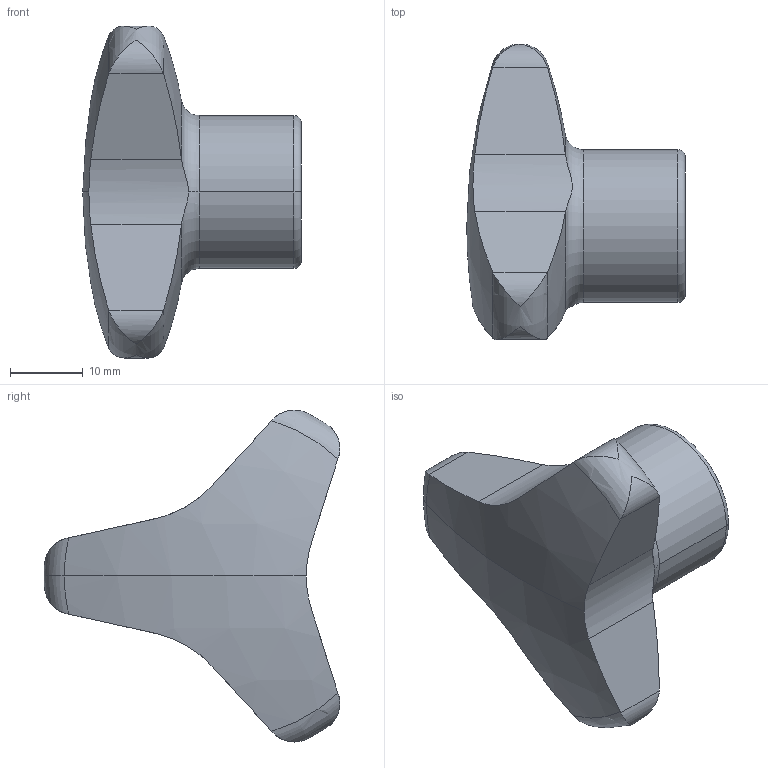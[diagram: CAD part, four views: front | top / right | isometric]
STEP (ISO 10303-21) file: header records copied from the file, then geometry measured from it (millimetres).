
FILE_DESCRIPTION (( 'STEP AP214' ), '1' );
FILE_NAME ('5345-50-B10-C.step', '2019-06-13T08:48:56', ( 'user' ), ( '' ), 'SwSTEP 2.0', 'SolidWorks 2019', '' );
FILE_SCHEMA (( 'AUTOMOTIVE_DESIGN' ));
Length unit declared in the file: millimetre
Products named in the file (1): 5345-50-B10-C
Bounding box: 30 x 40.58 x 45.59 mm (x, y, z)
Volume: 14608.9 mm3; surface area: 4877.7 mm2
Topology: 1 solids, 1 shells, 42 faces, 113 edges, 73 vertices
Faces by surface type: cylinder 16, torus 8, plane 8, sphere 6, cone 4
Entity records: 1599 total; most frequent: CARTESIAN_POINT 553, ORIENTED_EDGE 222, DIRECTION 205, EDGE_CURVE 111, AXIS2_PLACEMENT_3D 91, VERTEX_POINT 73, CIRCLE 48, EDGE_LOOP 44
